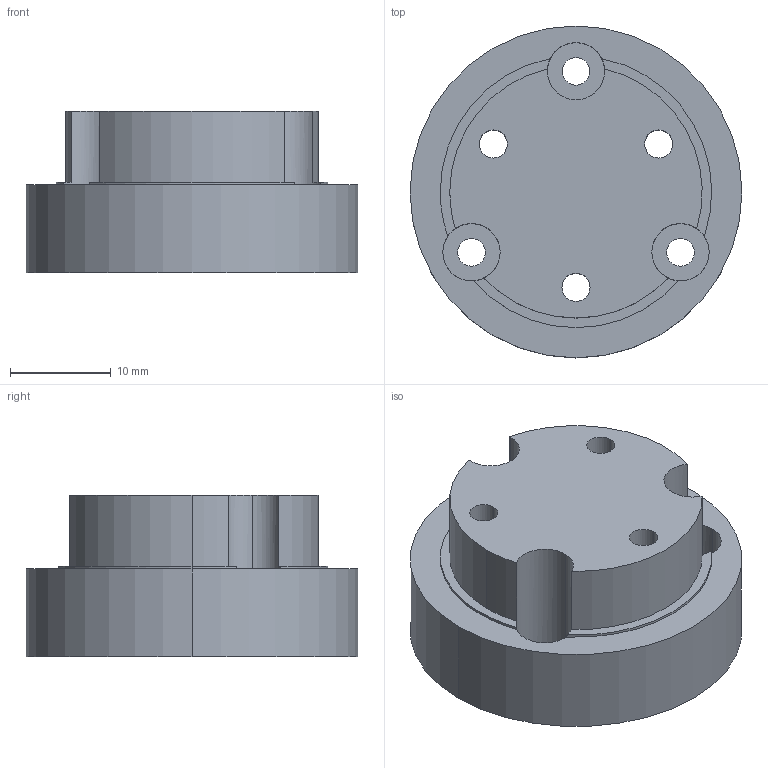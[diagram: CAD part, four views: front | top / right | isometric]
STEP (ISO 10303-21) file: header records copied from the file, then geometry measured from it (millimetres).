
FILE_DESCRIPTION (( 'STEP AP214' ), '1' );
FILE_NAME ('Output_shaft.STEP', '2020-08-29T12:53:17', ( '' ), ( '' ), 'SwSTEP 2.0', 'SolidWorks 2020', '' );
FILE_SCHEMA (( 'AUTOMOTIVE_DESIGN' ));
Length unit declared in the file: millimetre
Products named in the file (1): Output_shaft
Bounding box: 33 x 33 x 16.1 mm (x, y, z)
Volume: 8848.2 mm3; surface area: 4312.5 mm2
Topology: 1 solids, 1 shells, 40 faces, 108 edges, 72 vertices
Faces by surface type: cylinder 30, plane 10
Entity records: 1362 total; most frequent: DIRECTION 262, CARTESIAN_POINT 221, ORIENTED_EDGE 216, AXIS2_PLACEMENT_3D 113, EDGE_CURVE 108, VERTEX_POINT 72, CIRCLE 72, EDGE_LOOP 54
